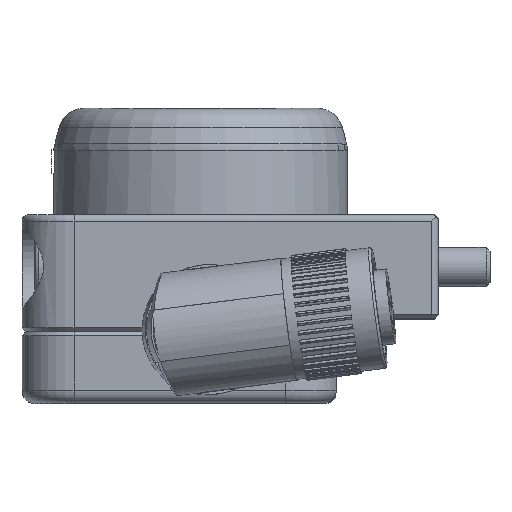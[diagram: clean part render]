
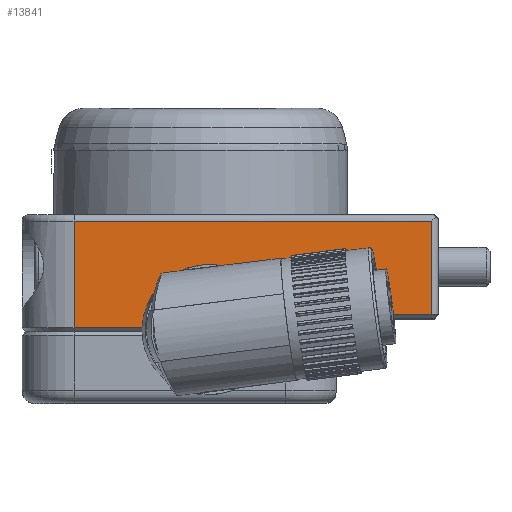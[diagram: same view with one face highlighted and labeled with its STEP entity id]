
A CAD part, top view. The second image highlights one B-rep face of the part: STEP entity #13841.
In plain terms, the highlighted planar face has unit normal (0, 0, 1).
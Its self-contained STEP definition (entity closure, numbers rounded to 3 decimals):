
#481=PLANE('',#15101);
#1272=LINE('',#22307,#2296);
#1305=LINE('',#22415,#2329);
#1308=LINE('',#22426,#2332);
#1319=LINE('',#22460,#2343);
#1320=LINE('',#22462,#2344);
#1321=LINE('',#22464,#2345);
#1322=LINE('',#22466,#2346);
#2296=VECTOR('',#17879,10.);
#2329=VECTOR('',#17982,10.);
#2332=VECTOR('',#17987,10.);
#2343=VECTOR('',#18024,10.);
#2344=VECTOR('',#18025,10.);
#2345=VECTOR('',#18026,10.);
#2346=VECTOR('',#18027,10.);
#3499=FACE_OUTER_BOUND('',#4340,.T.);
#4340=EDGE_LOOP('',(#10698,#10699,#10700,#10701,#10702,#10703,#10704,#10705,
#10706));
#5222=CIRCLE('',#15102,4.4);
#5223=CIRCLE('',#15103,4.4);
#6197=VERTEX_POINT('',#22300);
#6200=VERTEX_POINT('',#22305);
#6238=VERTEX_POINT('',#22408);
#6240=VERTEX_POINT('',#22414);
#6251=VERTEX_POINT('',#22459);
#6252=VERTEX_POINT('',#22461);
#6253=VERTEX_POINT('',#22463);
#6254=VERTEX_POINT('',#22465);
#6255=VERTEX_POINT('',#22467);
#7765=EDGE_CURVE('',#6200,#6197,#1272,.T.);
#7818=EDGE_CURVE('',#6238,#6240,#1305,.T.);
#7822=EDGE_CURVE('',#6238,#6197,#1308,.T.);
#7838=EDGE_CURVE('',#6251,#6200,#1319,.T.);
#7839=EDGE_CURVE('',#6252,#6251,#1320,.T.);
#7840=EDGE_CURVE('',#6253,#6252,#1321,.T.);
#7841=EDGE_CURVE('',#6254,#6253,#1322,.T.);
#7842=EDGE_CURVE('',#6255,#6254,#5222,.T.);
#7843=EDGE_CURVE('',#6240,#6255,#5223,.T.);
#10698=ORIENTED_EDGE('',*,*,#7765,.F.);
#10699=ORIENTED_EDGE('',*,*,#7838,.F.);
#10700=ORIENTED_EDGE('',*,*,#7839,.F.);
#10701=ORIENTED_EDGE('',*,*,#7840,.F.);
#10702=ORIENTED_EDGE('',*,*,#7841,.F.);
#10703=ORIENTED_EDGE('',*,*,#7842,.F.);
#10704=ORIENTED_EDGE('',*,*,#7843,.F.);
#10705=ORIENTED_EDGE('',*,*,#7818,.F.);
#10706=ORIENTED_EDGE('',*,*,#7822,.T.);
#13841=ADVANCED_FACE('',(#3499),#481,.T.);
#15101=AXIS2_PLACEMENT_3D('',#22458,#18022,#18023);
#15102=AXIS2_PLACEMENT_3D('',#22468,#18028,#18029);
#15103=AXIS2_PLACEMENT_3D('',#22469,#18030,#18031);
#17879=DIRECTION('',(-1.,0.,0.));
#17982=DIRECTION('',(-1.,0.,0.));
#17987=DIRECTION('',(0.,1.,0.));
#18022=DIRECTION('center_axis',(0.,0.,
1.));
#18023=DIRECTION('ref_axis',(0.,1.,0.));
#18024=DIRECTION('',(0.,-1.,0.));
#18025=DIRECTION('',(1.,0.,0.));
#18026=DIRECTION('',(0.,1.,0.));
#18027=DIRECTION('',(-1.,0.,0.));
#18028=DIRECTION('center_axis',(0.,0.,
1.));
#18029=DIRECTION('ref_axis',(0.,1.,0.));
#18030=DIRECTION('center_axis',(0.,0.,
1.));
#18031=DIRECTION('ref_axis',(0.,1.,0.));
#22300=CARTESIAN_POINT('',(-11.75,-26.468,17.));
#22305=CARTESIAN_POINT('',(-0.5,-26.468,17.));
#22307=CARTESIAN_POINT('',(-1.125,-26.468,17.));
#22408=CARTESIAN_POINT('',(-11.75,-27.468,17.));
#22414=CARTESIAN_POINT('',(-13.86,-27.468,17.));
#22415=CARTESIAN_POINT('',(-8.,-27.468,17.));
#22426=CARTESIAN_POINT('',(-11.75,-25.518,17.));
#22458=CARTESIAN_POINT('Origin',(0.,-23.268,
17.));
#22459=CARTESIAN_POINT('',(-0.5,-19.268,17.));
#22460=CARTESIAN_POINT('',(-0.5,-27.768,17.));
#22461=CARTESIAN_POINT('',(-28.,-19.268,17.));
#22462=CARTESIAN_POINT('',(-8.,-19.268,17.));
#22463=CARTESIAN_POINT('',(-28.,-27.468,17.));
#22464=CARTESIAN_POINT('',(-28.,-23.268,17.));
#22465=CARTESIAN_POINT('',(-22.64,-27.468,17.));
#22466=CARTESIAN_POINT('',(-8.,-27.468,17.));
#22467=CARTESIAN_POINT('',(-18.25,-23.368,17.));
#22468=CARTESIAN_POINT('Origin',(-18.25,-27.768,17.));
#22469=CARTESIAN_POINT('Origin',(-18.25,-27.768,17.));
